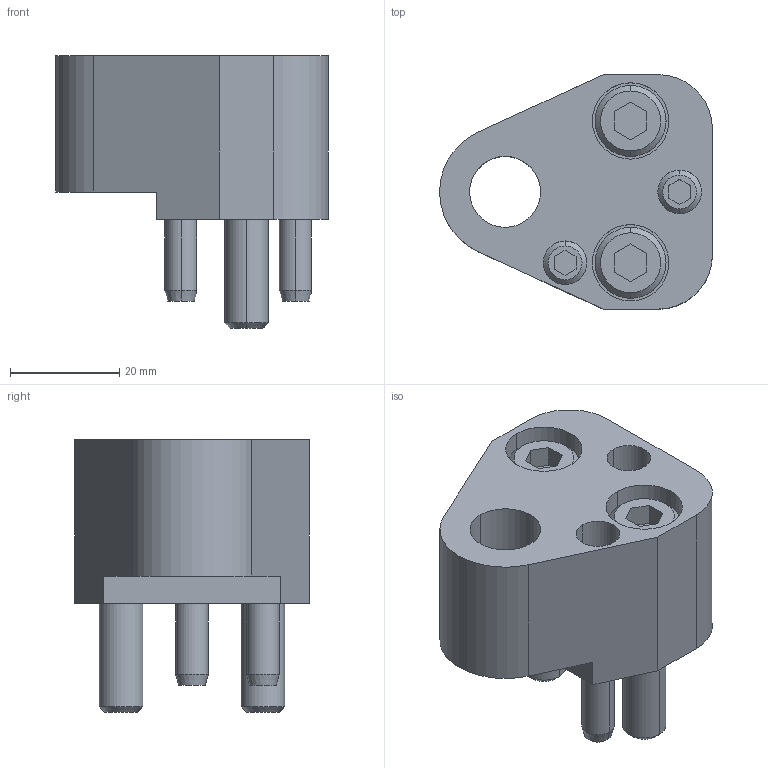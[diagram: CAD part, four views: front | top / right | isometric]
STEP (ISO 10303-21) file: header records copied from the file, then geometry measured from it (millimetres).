
FILE_DESCRIPTION(/* description */ (''),/* implementation_level */ '2;1');
FILE_NAME(/* name */ '3d_dpfr13_02819_r00.stp',/* time_stamp */ '2011-01-10T14:15:54+09:00',/* author */ ('MISUMI'),/* organization */ (''),/* preprocessor_version */ 'ST-DEVELOPER v11',/* originating_system */ 'UGS - NX 5.0',/* authorisation */ '');
FILE_SCHEMA (('CONFIG_CONTROL_DESIGN'));
Length unit declared in the file: millimetre
Products named in the file (1): 3d_dpfr13_02819_r00
Bounding box: 50 x 43 x 50 mm (x, y, z)
Volume: 44601 mm3; surface area: 16923.4 mm2
Topology: 7 solids, 7 shells, 134 faces, 296 edges, 189 vertices
Faces by surface type: plane 61, cylinder 47, cone 26
Entity records: 3838 total; most frequent: DIRECTION 682, CARTESIAN_POINT 673, ORIENTED_EDGE 592, EDGE_CURVE 296, AXIS2_PLACEMENT_3D 256, VERTEX_POINT 189, LINE 170, VECTOR 170
